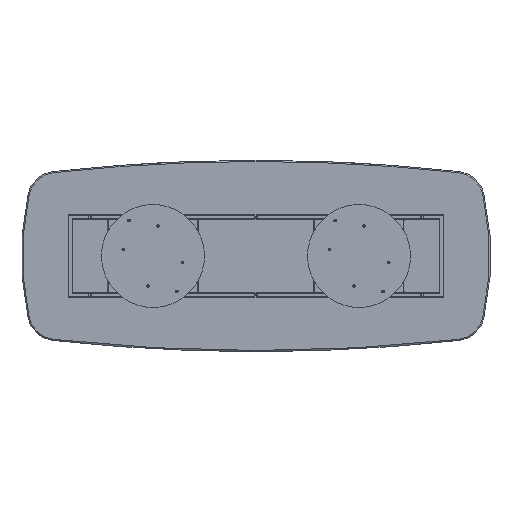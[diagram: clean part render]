
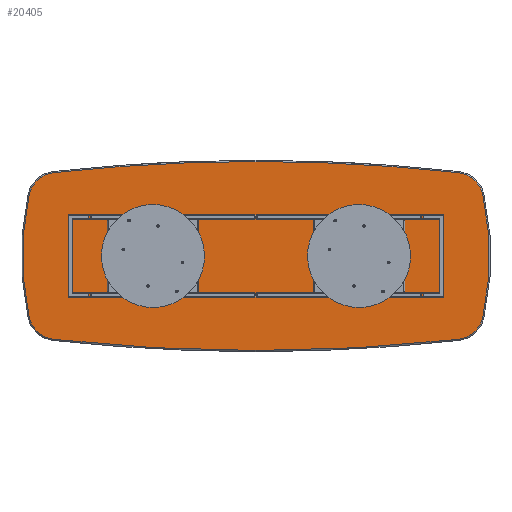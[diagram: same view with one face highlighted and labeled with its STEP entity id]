
A CAD part, front view. The second image highlights one B-rep face of the part: STEP entity #20405.
In plain terms, the highlighted planar face has unit normal (0, -1, 0).
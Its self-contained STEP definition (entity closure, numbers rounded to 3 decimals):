
#146 = AXIS2_PLACEMENT_3D ( 'NONE', #13603, #21788, #19893 ) ;
#501 = DIRECTION ( 'NONE',  ( 0., 0., 1. ) ) ;
#575 = ORIENTED_EDGE ( 'NONE', *, *, #8163, .T. ) ;
#671 = EDGE_CURVE ( 'NONE', #1034, #18679, #6835, .T. ) ;
#827 = AXIS2_PLACEMENT_3D ( 'NONE', #12863, #4453, #11215 ) ;
#1034 = VERTEX_POINT ( 'NONE', #16535 ) ;
#1585 = CIRCLE ( 'NONE', #17449, 12492. ) ;
#1741 = DIRECTION ( 'NONE',  ( 0., 0., 1. ) ) ;
#1844 = EDGE_CURVE ( 'NONE', #9425, #18524, #5477, .T. ) ;
#1903 = DIRECTION ( 'NONE',  ( 0., -1., 0. ) ) ;
#1904 = VERTEX_POINT ( 'NONE', #20537 ) ;
#2159 = CARTESIAN_POINT ( 'NONE',  ( 0., 0., 11850. ) ) ;
#2301 = AXIS2_PLACEMENT_3D ( 'NONE', #15281, #1903, #13844 ) ;
#2371 = AXIS2_PLACEMENT_3D ( 'NONE', #9475, #17978, #7696 ) ;
#3122 = DIRECTION ( 'NONE',  ( 0., 1., 0. ) ) ;
#3411 = EDGE_CURVE ( 'NONE', #18679, #7707, #10980, .T. ) ;
#3945 = DIRECTION ( 'NONE',  ( 0., -1., 0. ) ) ;
#4453 = DIRECTION ( 'NONE',  ( 0., -1., 0. ) ) ;
#4908 = ORIENTED_EDGE ( 'NONE', *, *, #9571, .T. ) ;
#5157 = ORIENTED_EDGE ( 'NONE', *, *, #17589, .T. ) ;
#5462 = CIRCLE ( 'NONE', #2301, 192. ) ;
#5477 = CIRCLE ( 'NONE', #9020, 192. ) ;
#6191 = AXIS2_PLACEMENT_3D ( 'NONE', #15560, #20629, #1741 ) ;
#6396 = ORIENTED_EDGE ( 'NONE', *, *, #1844, .T. ) ;
#6509 = EDGE_LOOP ( 'NONE', ( #16412, #4908, #6396, #575, #11631, #11256, #15219, #5157, #11068 ) ) ;
#6835 = CIRCLE ( 'NONE', #19913, 192. ) ;
#6914 = CIRCLE ( 'NONE', #6191, 12492. ) ;
#7268 = CARTESIAN_POINT ( 'NONE',  ( 0., 0., -11850. ) ) ;
#7696 = DIRECTION ( 'NONE',  ( 0., 0., 1. ) ) ;
#7707 = VERTEX_POINT ( 'NONE', #11339 ) ;
#7838 = VERTEX_POINT ( 'NONE', #18836 ) ;
#7872 = CARTESIAN_POINT ( 'NONE',  ( -152.5, 0., 5925. ) ) ;
#8163 = EDGE_CURVE ( 'NONE', #18524, #1034, #10001, .T. ) ;
#8382 = DIRECTION ( 'NONE',  ( 0., -1., 0. ) ) ;
#8384 = DIRECTION ( 'NONE',  ( 0., -1., 0. ) ) ;
#8730 = CIRCLE ( 'NONE', #2371, 1892. ) ;
#9020 = AXIS2_PLACEMENT_3D ( 'NONE', #13368, #8384, #10375 ) ;
#9041 = DIRECTION ( 'NONE',  ( 0., 0., 1. ) ) ;
#9334 = DIRECTION ( 'NONE',  ( 0., -1., 0. ) ) ;
#9425 = VERTEX_POINT ( 'NONE', #10238 ) ;
#9475 = CARTESIAN_POINT ( 'NONE',  ( 305., 0., 0. ) ) ;
#9571 = EDGE_CURVE ( 'NONE', #1904, #9425, #1585, .T. ) ;
#10001 = CIRCLE ( 'NONE', #146, 1892. ) ;
#10148 = CARTESIAN_POINT ( 'NONE',  ( 1540.305, 0., -417.747 ) ) ;
#10238 = CARTESIAN_POINT ( 'NONE',  ( 1374.165, 0., -566.188 ) ) ;
#10375 = DIRECTION ( 'NONE',  ( 0., 0., 1. ) ) ;
#10980 = CIRCLE ( 'NONE', #16606, 12492. ) ;
#11068 = ORIENTED_EDGE ( 'NONE', *, *, #12211, .T. ) ;
#11104 = FACE_OUTER_BOUND ( 'NONE', #6509, .T. ) ;
#11215 = DIRECTION ( 'NONE',  ( 0., 0., 1. ) ) ;
#11256 = ORIENTED_EDGE ( 'NONE', *, *, #3411, .T. ) ;
#11339 = CARTESIAN_POINT ( 'NONE',  ( 0., 0., 642. ) ) ;
#11631 = ORIENTED_EDGE ( 'NONE', *, *, #671, .T. ) ;
#11812 = CARTESIAN_POINT ( 'NONE',  ( 1353.044, 0., 375.354 ) ) ;
#11891 = CARTESIAN_POINT ( 'NONE',  ( -1540.305, 0., -417.747 ) ) ;
#12211 = EDGE_CURVE ( 'NONE', #12628, #20283, #8730, .T. ) ;
#12628 = VERTEX_POINT ( 'NONE', #16252 ) ;
#12863 = CARTESIAN_POINT ( 'NONE',  ( -1353.044, 0., -375.354 ) ) ;
#13307 = PLANE ( 'NONE',  #19627 ) ;
#13368 = CARTESIAN_POINT ( 'NONE',  ( 1353.044, 0., -375.354 ) ) ;
#13603 = CARTESIAN_POINT ( 'NONE',  ( -305., 0., 0. ) ) ;
#13844 = DIRECTION ( 'NONE',  ( 0., 0., 1. ) ) ;
#15219 = ORIENTED_EDGE ( 'NONE', *, *, #18582, .T. ) ;
#15281 = CARTESIAN_POINT ( 'NONE',  ( -1353.044, 0., 375.354 ) ) ;
#15560 = CARTESIAN_POINT ( 'NONE',  ( 0., 0., -11850. ) ) ;
#15666 = EDGE_CURVE ( 'NONE', #20283, #1904, #18483, .T. ) ;
#15772 = CARTESIAN_POINT ( 'NONE',  ( 1374.165, 0., 566.188 ) ) ;
#16252 = CARTESIAN_POINT ( 'NONE',  ( -1540.305, 0., 417.747 ) ) ;
#16412 = ORIENTED_EDGE ( 'NONE', *, *, #15666, .T. ) ;
#16535 = CARTESIAN_POINT ( 'NONE',  ( 1540.305, 0., 417.747 ) ) ;
#16606 = AXIS2_PLACEMENT_3D ( 'NONE', #7268, #3945, #9041 ) ;
#17001 = DIRECTION ( 'NONE',  ( 0., 0., 1. ) ) ;
#17449 = AXIS2_PLACEMENT_3D ( 'NONE', #2159, #9334, #501 ) ;
#17589 = EDGE_CURVE ( 'NONE', #7838, #12628, #5462, .T. ) ;
#17978 = DIRECTION ( 'NONE',  ( 0., -1., 0. ) ) ;
#18483 = CIRCLE ( 'NONE', #827, 192. ) ;
#18524 = VERTEX_POINT ( 'NONE', #10148 ) ;
#18582 = EDGE_CURVE ( 'NONE', #7707, #7838, #6914, .T. ) ;
#18679 = VERTEX_POINT ( 'NONE', #15772 ) ;
#18836 = CARTESIAN_POINT ( 'NONE',  ( -1374.165, 0., 566.188 ) ) ;
#19627 = AXIS2_PLACEMENT_3D ( 'NONE', #7872, #3122, #21258 ) ;
#19893 = DIRECTION ( 'NONE',  ( 0., 0., 1. ) ) ;
#19913 = AXIS2_PLACEMENT_3D ( 'NONE', #11812, #8382, #17001 ) ;
#20283 = VERTEX_POINT ( 'NONE', #11891 ) ;
#20405 = ADVANCED_FACE ( 'NONE', ( #11104 ), #13307, .F. ) ;
#20537 = CARTESIAN_POINT ( 'NONE',  ( -1374.165, 0., -566.188 ) ) ;
#20629 = DIRECTION ( 'NONE',  ( 0., -1., 0. ) ) ;
#21258 = DIRECTION ( 'NONE',  ( 0., 0., 1. ) ) ;
#21788 = DIRECTION ( 'NONE',  ( 0., -1., 0. ) ) ;
